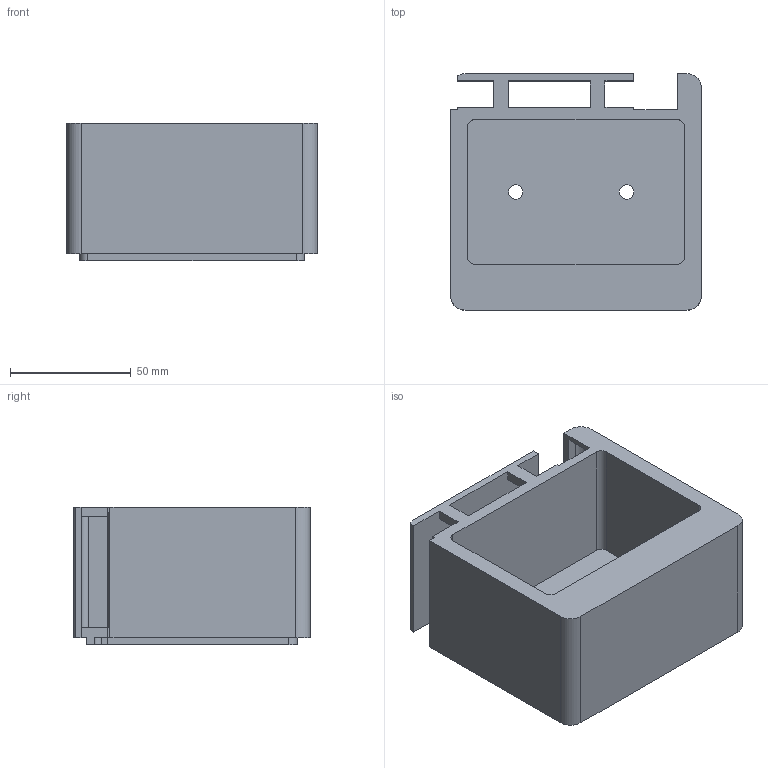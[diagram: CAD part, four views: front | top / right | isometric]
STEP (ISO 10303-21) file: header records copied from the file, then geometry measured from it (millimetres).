
FILE_DESCRIPTION(('Open CASCADE Model'),'2;1');
FILE_NAME('Open CASCADE Shape Model','2026-09-13T14:28:33',('Author'),( 'Open CASCADE'),'Open CASCADE STEP processor 7.9','Open CASCADE 7.9' ,'Unknown');
FILE_SCHEMA(('AUTOMOTIVE_DESIGN { 1 0 10303 214 1 1 1 1 }'));
Length unit declared in the file: millimetre
Products named in the file (1): Open CASCADE STEP translator 7.9 3
Bounding box: 104 x 98 x 57 mm (x, y, z)
Volume: 158764.4 mm3; surface area: 90736.9 mm2
Topology: 1 solids, 1 shells, 71 faces, 208 edges, 138 vertices
Faces by surface type: plane 48, cylinder 23
Full cylindrical faces by diameter (mm): 6 x2
Entity records: 5055 total; most frequent: CARTESIAN_POINT 933, DIRECTION 755, LINE 481, VECTOR 481, ORIENTED_EDGE 416, PCURVE 416, DEFINITIONAL_REPRESENTATION 416, EDGE_CURVE 208
